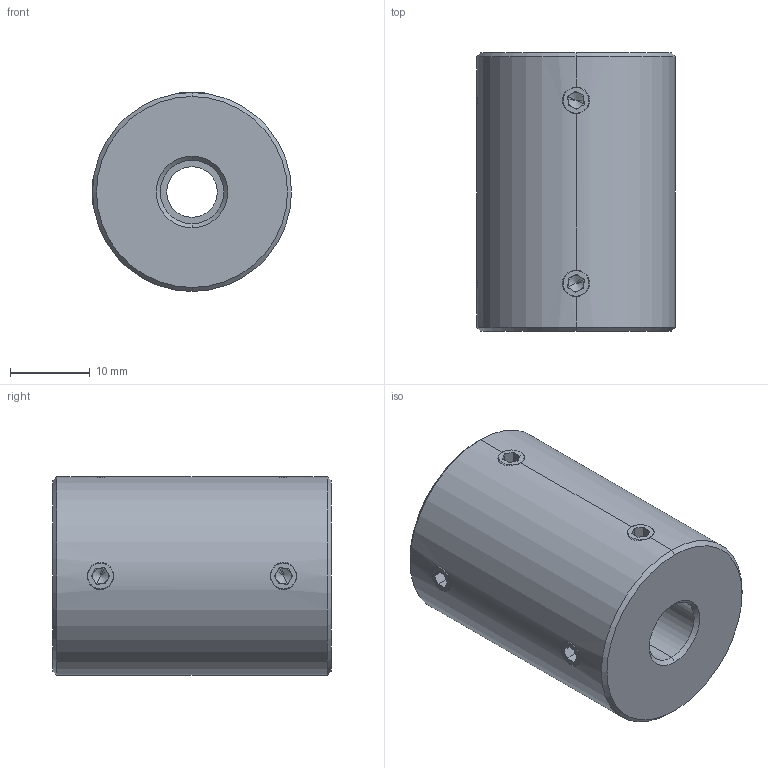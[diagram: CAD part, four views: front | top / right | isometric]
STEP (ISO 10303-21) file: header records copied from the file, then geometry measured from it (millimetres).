
FILE_DESCRIPTION (( 'STEP AP214' ), '1' );
FILE_NAME ('LL-D-D25L35-6.35-8½¨Ä£.STEP', '2022-07-23T00:38:34', ( '' ), ( '' ), 'SwSTEP 2.0', 'SolidWorks 2022', '' );
FILE_SCHEMA (( 'AUTOMOTIVE_DESIGN' ));
Length unit declared in the file: millimetre
Products named in the file (1): LL-D-D25L35-6.35-8膘耀
Bounding box: 25 x 35 x 25 mm (x, y, z)
Volume: 15524.7 mm3; surface area: 4675.5 mm2
Topology: 1 solids, 1 shells, 113 faces, 286 edges, 176 vertices
Faces by surface type: plane 59, cone 32, cylinder 22
Entity records: 3720 total; most frequent: CARTESIAN_POINT 1010, DIRECTION 558, ORIENTED_EDGE 556, EDGE_CURVE 278, AXIS2_PLACEMENT_3D 206, VERTEX_POINT 176, LINE 146, VECTOR 146
